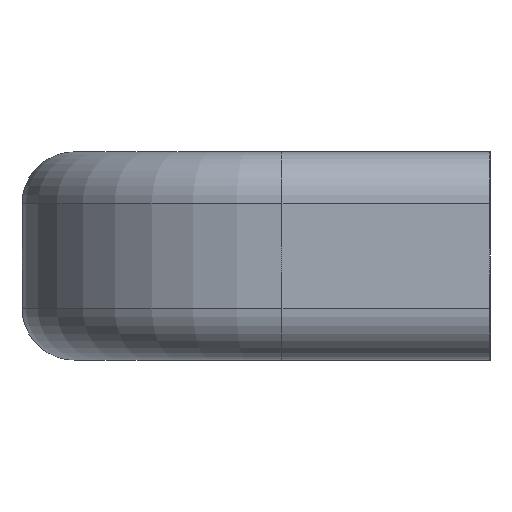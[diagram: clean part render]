
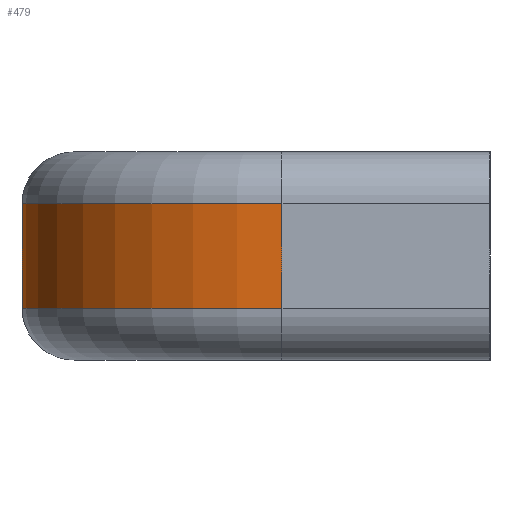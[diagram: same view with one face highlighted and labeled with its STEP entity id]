
A CAD part, left-side view. The second image highlights one B-rep face of the part: STEP entity #479.
In plain terms, the highlighted cylindrical face has radius 25 mm (diameter 50 mm), a partial arc.
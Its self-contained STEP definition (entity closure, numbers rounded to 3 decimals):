
#446 = VERTEX_POINT ( 'NONE', #746 ) ;
#448 = VERTEX_POINT ( 'NONE', #750 ) ;
#463 = EDGE_CURVE ( 'NONE', #617, #446, #800, .T. ) ;
#466 = VERTEX_POINT ( 'NONE', #801 ) ;
#467 = ORIENTED_EDGE ( 'NONE', *, *, #468, .T. ) ;
#468 = EDGE_CURVE ( 'NONE', #466, #448, #791, .T. ) ;
#469 = ORIENTED_EDGE ( 'NONE', *, *, #487, .F. ) ;
#470 = ORIENTED_EDGE ( 'NONE', *, *, #463, .F. ) ;
#479 = ADVANCED_FACE ( 'NONE', ( #845 ), #811, .T. ) ;
#481 = EDGE_LOOP ( 'NONE', ( #485, #467, #469, #470 ) ) ;
#485 = ORIENTED_EDGE ( 'NONE', *, *, #486, .T. ) ;
#486 = EDGE_CURVE ( 'NONE', #617, #466, #844, .T. ) ;
#487 = EDGE_CURVE ( 'NONE', #446, #448, #830, .T. ) ;
#617 = VERTEX_POINT ( 'NONE', #981 ) ;
#746 = CARTESIAN_POINT ( 'NONE',  ( -70., 45., -5. ) ) ;
#750 = CARTESIAN_POINT ( 'NONE',  ( -70., 45., 5. ) ) ;
#774 = DIRECTION ( 'NONE',  ( -1., 0., 0. ) ) ;
#775 = DIRECTION ( 'NONE',  ( 0., 0., -1. ) ) ;
#776 = AXIS2_PLACEMENT_3D ( 'NONE', #799, #775, #774 ) ;
#779 = DIRECTION ( 'NONE',  ( -1., 0., 0. ) ) ;
#788 = DIRECTION ( 'NONE',  ( 0., 0., -1. ) ) ;
#789 = CARTESIAN_POINT ( 'NONE',  ( -70., 20., 5. ) ) ;
#790 = AXIS2_PLACEMENT_3D ( 'NONE', #789, #788, #779 ) ;
#791 = CIRCLE ( 'NONE', #790, 25. ) ;
#799 = CARTESIAN_POINT ( 'NONE',  ( -70., 20., -5. ) ) ;
#800 = CIRCLE ( 'NONE', #776, 25. ) ;
#801 = CARTESIAN_POINT ( 'NONE',  ( -95., 20., 5. ) ) ;
#811 = CYLINDRICAL_SURFACE ( 'NONE', #848, 25. ) ;
#827 = DIRECTION ( 'NONE',  ( 0., 0., 1. ) ) ;
#828 = VECTOR ( 'NONE', #827, 1000. ) ;
#829 = CARTESIAN_POINT ( 'NONE',  ( -70., 45., 5. ) ) ;
#830 = LINE ( 'NONE', #829, #828 ) ;
#831 = DIRECTION ( 'NONE',  ( 0., 0., 1. ) ) ;
#832 = VECTOR ( 'NONE', #831, 1000. ) ;
#833 = CARTESIAN_POINT ( 'NONE',  ( -95., 20., 5. ) ) ;
#838 = DIRECTION ( 'NONE',  ( -1., 0., 0. ) ) ;
#839 = CARTESIAN_POINT ( 'NONE',  ( -70., 20., 0. ) ) ;
#844 = LINE ( 'NONE', #833, #832 ) ;
#845 = FACE_OUTER_BOUND ( 'NONE', #481, .T. ) ;
#846 = DIRECTION ( 'NONE',  ( 0., 0., -1. ) ) ;
#848 = AXIS2_PLACEMENT_3D ( 'NONE', #839, #846, #838 ) ;
#981 = CARTESIAN_POINT ( 'NONE',  ( -95., 20., -5. ) ) ;
